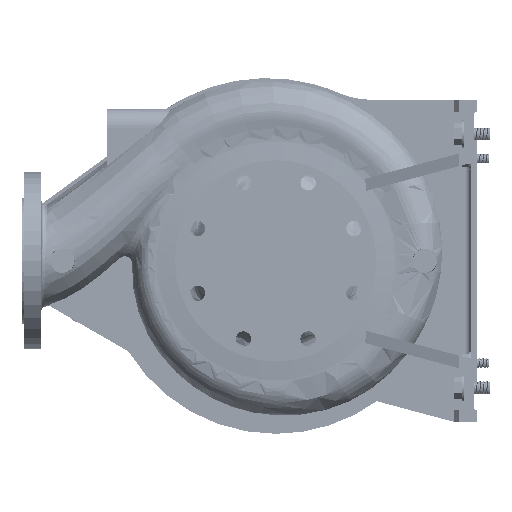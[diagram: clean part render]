
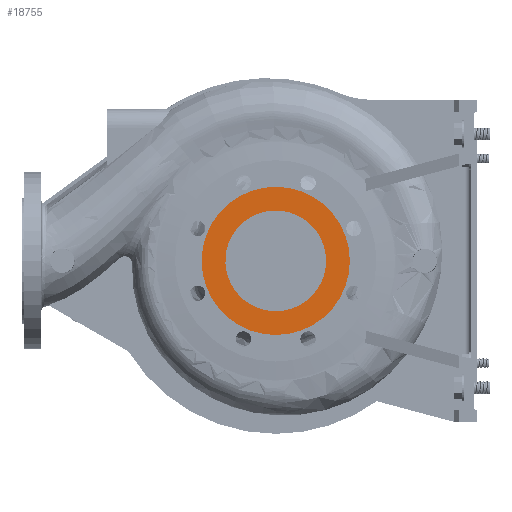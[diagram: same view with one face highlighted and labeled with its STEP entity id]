
A CAD part, left-side view. The second image highlights one B-rep face of the part: STEP entity #18755.
In plain terms, the highlighted planar face has unit normal (-1, 0, 0).
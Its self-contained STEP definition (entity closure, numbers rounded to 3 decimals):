
#1023 = VERTEX_POINT ( 'NONE', #146806 ) ;
#1403 = CARTESIAN_POINT ( 'NONE',  ( -140., -57.028, -25.59 ) ) ;
#4595 = EDGE_LOOP ( 'NONE', ( #46473, #178345 ) ) ;
#6438 = DIRECTION ( 'NONE',  ( -1., 0., 0. ) ) ;
#7957 = EDGE_CURVE ( 'NONE', #1023, #105936, #239258, .T. ) ;
#18721 = CARTESIAN_POINT ( 'NONE',  ( -140., 48.391, -39.714 ) ) ;
#18755 = ADVANCED_FACE ( 'NONE', ( #117908, #261399 ), #214984, .F. ) ;
#20018 = CARTESIAN_POINT ( 'NONE',  ( -140., -59.041, -21.017 ) ) ;
#30898 = CIRCLE ( 'NONE', #128673, 62.5 ) ;
#32834 = DIRECTION ( 'NONE',  ( 0., 0., -1. ) ) ;
#37332 = CARTESIAN_POINT ( 'NONE',  ( -140., 62.903, 0. ) ) ;
#40740 = EDGE_CURVE ( 'NONE', #206685, #237377, #217237, .T. ) ;
#41264 = CARTESIAN_POINT ( 'NONE',  ( -140., 52.302, 34.947 ) ) ;
#42562 = CARTESIAN_POINT ( 'NONE',  ( -140., -58.115, 24.072 ) ) ;
#46473 = ORIENTED_EDGE ( 'NONE', *, *, #101420, .T. ) ;
#58625 = CARTESIAN_POINT ( 'NONE',  ( -140., 18.172, -59.905 ) ) ;
#59927 = CARTESIAN_POINT ( 'NONE',  ( -140., 52.051, -34.779 ) ) ;
#60915 = AXIS2_PLACEMENT_3D ( 'NONE', #148694, #6438, #167355 ) ;
#69391 = CARTESIAN_POINT ( 'NONE',  ( -140., 0., 0. ) ) ;
#77243 = CARTESIAN_POINT ( 'NONE',  ( -140., -12.272, 61.694 ) ) ;
#81180 = CARTESIAN_POINT ( 'NONE',  ( -140., 34.948, -52.303 ) ) ;
#82486 = CARTESIAN_POINT ( 'NONE',  ( -140., -56.644, -26.414 ) ) ;
#86301 = CARTESIAN_POINT ( 'NONE',  ( -140., 0., 92. ) ) ;
#97932 = DIRECTION ( 'NONE',  ( 1., 0., 0. ) ) ;
#98514 = CARTESIAN_POINT ( 'NONE',  ( -140., -44.479, 44.479 ) ) ;
#99829 = CARTESIAN_POINT ( 'NONE',  ( -140., 58.708, -22.112 ) ) ;
#101420 = EDGE_CURVE ( 'NONE', #105936, #1023, #211626, .T. ) ;
#102448 = CARTESIAN_POINT ( 'NONE',  ( -140., -61.695, -12.27 ) ) ;
#103766 = CARTESIAN_POINT ( 'NONE',  ( -140., 12.213, -61.398 ) ) ;
#105400 = DIRECTION ( 'NONE',  ( 0., 0., 1. ) ) ;
#105880 = CARTESIAN_POINT ( 'NONE',  ( -140., -56.644, -26.414 ) ) ;
#105936 = VERTEX_POINT ( 'NONE', #86301 ) ;
#110624 = DIRECTION ( 'NONE',  ( 1., 0., 0. ) ) ;
#113335 = CARTESIAN_POINT ( 'NONE',  ( -140., 0., -62.5 ) ) ;
#117908 = FACE_BOUND ( 'NONE', #160658, .T. ) ;
#122425 = CARTESIAN_POINT ( 'NONE',  ( -140., -24.072, 58.115 ) ) ;
#128673 = AXIS2_PLACEMENT_3D ( 'NONE', #69391, #110624, #105400 ) ;
#137838 = CARTESIAN_POINT ( 'NONE',  ( -140., 91., -91. ) ) ;
#138403 = CARTESIAN_POINT ( 'NONE',  ( -140., 2.044, -62.5 ) ) ;
#139731 = CARTESIAN_POINT ( 'NONE',  ( -140., 42.895, -45.778 ) ) ;
#141056 = CARTESIAN_POINT ( 'NONE',  ( -140., 0., 62.903 ) ) ;
#142382 = CARTESIAN_POINT ( 'NONE',  ( -140., 58.115, 24.072 ) ) ;
#146806 = CARTESIAN_POINT ( 'NONE',  ( -140., 0., -92. ) ) ;
#148694 = CARTESIAN_POINT ( 'NONE',  ( -140., 0., 0. ) ) ;
#158348 = CARTESIAN_POINT ( 'NONE',  ( -140., -52.302, 34.947 ) ) ;
#160658 = EDGE_LOOP ( 'NONE', ( #259961, #258207 ) ) ;
#160828 = AXIS2_PLACEMENT_3D ( 'NONE', #186175, #166204, #247255 ) ;
#161003 = CARTESIAN_POINT ( 'NONE',  ( -140., 34.947, 52.302 ) ) ;
#162313 = CARTESIAN_POINT ( 'NONE',  ( -140., 55.209, -29.509 ) ) ;
#166204 = DIRECTION ( 'NONE',  ( -1., 0., 0. ) ) ;
#167355 = DIRECTION ( 'NONE',  ( 0., 0., 1. ) ) ;
#178345 = ORIENTED_EDGE ( 'NONE', *, *, #7957, .T. ) ;
#180915 = CARTESIAN_POINT ( 'NONE',  ( -140., 61.695, -12.27 ) ) ;
#182241 = CARTESIAN_POINT ( 'NONE',  ( -140., 0., -62.5 ) ) ;
#186175 = CARTESIAN_POINT ( 'NONE',  ( -140., 0., 0. ) ) ;
#193642 = AXIS2_PLACEMENT_3D ( 'NONE', #137838, #97932, #32834 ) ;
#203472 = CARTESIAN_POINT ( 'NONE',  ( -140., -62.903, 0. ) ) ;
#206685 = VERTEX_POINT ( 'NONE', #113335 ) ;
#211626 = CIRCLE ( 'NONE', #160828, 92. ) ;
#214984 = PLANE ( 'NONE',  #193642 ) ;
#217237 = B_SPLINE_CURVE_WITH_KNOTS ( 'NONE', 3,
 ( #182241, #138403, #240729, #103766, #58625, #242039, #81180, #139731, #18721, #59927, #162313, #99829, #180915, #37332, #243363, #142382, #41264, #261967, #161003, #219466, #223415, #141056, #77243, #122425, #224700, #98514, #158348, #42562, #222110, #203472, #102448, #20018, #1403, #82486 ),
 .UNSPECIFIED., .F., .F.,
 ( 4, 1, 1, 1, 1, 1, 1, 1, 1, 1, 1, 1, 1, 1, 1, 1, 1, 1, 1, 1, 1, 1, 1, 1, 1, 1, 1, 1, 1, 1, 1, 4 ),
 ( -0.198, -0.192, -0.186, -0.179, -0.173, -0.161, -0.149, -0.142, -0.136, -0.13, -0.124, -0.112, -0.099, -0.087, -0.075, -0.062, -0.05, -0.038, -0.025, -0.013, -0.001, 0.012, 0.024, 0.036, 0.049, 0.061, 0.073, 0.086, 0.098, 0.11, 0.123, 0.125 ),
 .UNSPECIFIED. ) ;
#219466 = CARTESIAN_POINT ( 'NONE',  ( -140., 24.072, 58.115 ) ) ;
#222110 = CARTESIAN_POINT ( 'NONE',  ( -140., -61.694, 12.272 ) ) ;
#223415 = CARTESIAN_POINT ( 'NONE',  ( -140., 12.272, 61.694 ) ) ;
#224700 = CARTESIAN_POINT ( 'NONE',  ( -140., -34.947, 52.302 ) ) ;
#237377 = VERTEX_POINT ( 'NONE', #105880 ) ;
#239258 = CIRCLE ( 'NONE', #60915, 92. ) ;
#240729 = CARTESIAN_POINT ( 'NONE',  ( -140., 6.136, -62.299 ) ) ;
#241570 = EDGE_CURVE ( 'NONE', #237377, #206685, #30898, .T. ) ;
#242039 = CARTESIAN_POINT ( 'NONE',  ( -140., 25.878, -57.148 ) ) ;
#243363 = CARTESIAN_POINT ( 'NONE',  ( -140., 61.694, 12.272 ) ) ;
#247255 = DIRECTION ( 'NONE',  ( 0., 0., 1. ) ) ;
#258207 = ORIENTED_EDGE ( 'NONE', *, *, #241570, .T. ) ;
#259961 = ORIENTED_EDGE ( 'NONE', *, *, #40740, .T. ) ;
#261399 = FACE_OUTER_BOUND ( 'NONE', #4595, .T. ) ;
#261967 = CARTESIAN_POINT ( 'NONE',  ( -140., 44.479, 44.479 ) ) ;
